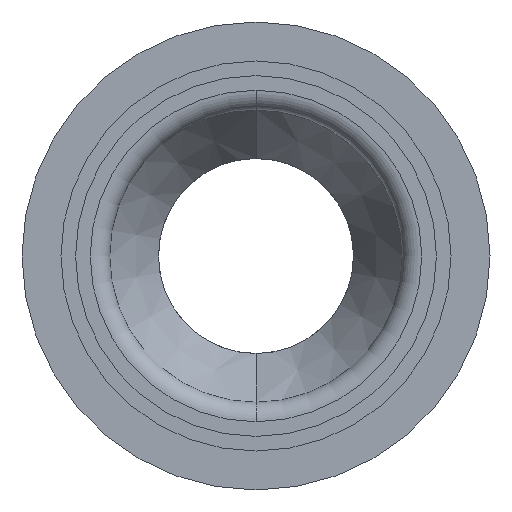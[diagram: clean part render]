
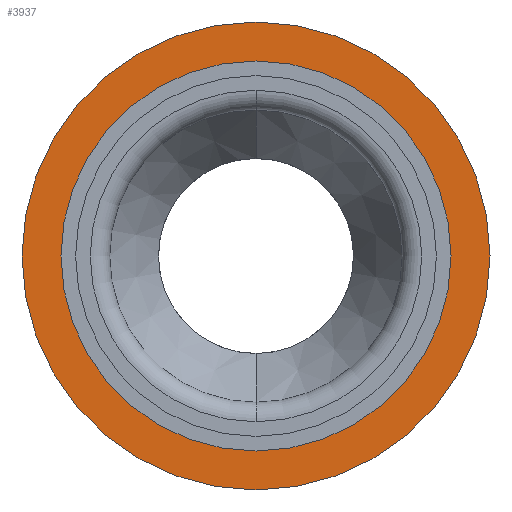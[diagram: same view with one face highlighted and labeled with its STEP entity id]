
A CAD part, front view. The second image highlights one B-rep face of the part: STEP entity #3937.
In plain terms, the highlighted planar face has unit normal (0, -1, 0).
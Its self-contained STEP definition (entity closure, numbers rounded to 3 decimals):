
#13 = EDGE_CURVE ( 'NONE', #3842, #4522, #550, .T. ) ;
#208 = DIRECTION ( 'NONE',  ( 0., 0., -1. ) ) ;
#254 = EDGE_CURVE ( 'NONE', #4522, #3842, #5600, .T. ) ;
#288 = AXIS2_PLACEMENT_3D ( 'NONE', #1944, #5370, #956 ) ;
#386 = AXIS2_PLACEMENT_3D ( 'NONE', #2300, #6187, #5752 ) ;
#433 = VERTEX_POINT ( 'NONE', #2230 ) ;
#550 = CIRCLE ( 'NONE', #2497, 9.15 ) ;
#734 = DIRECTION ( 'NONE',  ( 0., -1., 0. ) ) ;
#745 = CARTESIAN_POINT ( 'NONE',  ( -423.93, -8722.704, 9.15 ) ) ;
#956 = DIRECTION ( 'NONE',  ( 0., 0., -1. ) ) ;
#977 = EDGE_CURVE ( 'NONE', #4675, #433, #6056, .T. ) ;
#1550 = FACE_BOUND ( 'NONE', #1620, .T. ) ;
#1620 = EDGE_LOOP ( 'NONE', ( #3879, #4589 ) ) ;
#1944 = CARTESIAN_POINT ( 'NONE',  ( -423.93, -8722.704, 0. ) ) ;
#1963 = ORIENTED_EDGE ( 'NONE', *, *, #5989, .T. ) ;
#2147 = DIRECTION ( 'NONE',  ( 0., -1., 0. ) ) ;
#2230 = CARTESIAN_POINT ( 'NONE',  ( -423.93, -8722.704, -12. ) ) ;
#2255 = DIRECTION ( 'NONE',  ( 0., 0., -1. ) ) ;
#2278 = CARTESIAN_POINT ( 'NONE',  ( -423.93, -8722.704, 0. ) ) ;
#2300 = CARTESIAN_POINT ( 'NONE',  ( 0., -8722.704, 0. ) ) ;
#2497 = AXIS2_PLACEMENT_3D ( 'NONE', #5173, #2147, #4646 ) ;
#2612 = FACE_OUTER_BOUND ( 'NONE', #4259, .T. ) ;
#2643 = CARTESIAN_POINT ( 'NONE',  ( -423.93, -8722.704, -9.15 ) ) ;
#2747 = PLANE ( 'NONE',  #386 ) ;
#3367 = AXIS2_PLACEMENT_3D ( 'NONE', #4608, #734, #208 ) ;
#3842 = VERTEX_POINT ( 'NONE', #2643 ) ;
#3879 = ORIENTED_EDGE ( 'NONE', *, *, #13, .F. ) ;
#3937 = ADVANCED_FACE ( 'NONE', ( #1550, #2612 ), #2747, .T. ) ;
#4259 = EDGE_LOOP ( 'NONE', ( #1963, #5494 ) ) ;
#4522 = VERTEX_POINT ( 'NONE', #745 ) ;
#4589 = ORIENTED_EDGE ( 'NONE', *, *, #254, .F. ) ;
#4608 = CARTESIAN_POINT ( 'NONE',  ( -423.93, -8722.704, 0. ) ) ;
#4646 = DIRECTION ( 'NONE',  ( 0., 0., -1. ) ) ;
#4675 = VERTEX_POINT ( 'NONE', #5777 ) ;
#5173 = CARTESIAN_POINT ( 'NONE',  ( -423.93, -8722.704, 0. ) ) ;
#5370 = DIRECTION ( 'NONE',  ( 0., -1., 0. ) ) ;
#5415 = CIRCLE ( 'NONE', #3367, 12. ) ;
#5494 = ORIENTED_EDGE ( 'NONE', *, *, #977, .T. ) ;
#5600 = CIRCLE ( 'NONE', #6071, 9.15 ) ;
#5747 = DIRECTION ( 'NONE',  ( 0., -1., 0. ) ) ;
#5752 = DIRECTION ( 'NONE',  ( 0., 0., -1. ) ) ;
#5777 = CARTESIAN_POINT ( 'NONE',  ( -423.93, -8722.704, 12. ) ) ;
#5989 = EDGE_CURVE ( 'NONE', #433, #4675, #5415, .T. ) ;
#6056 = CIRCLE ( 'NONE', #288, 12. ) ;
#6071 = AXIS2_PLACEMENT_3D ( 'NONE', #2278, #5747, #2255 ) ;
#6187 = DIRECTION ( 'NONE',  ( 0., -1., 0. ) ) ;
